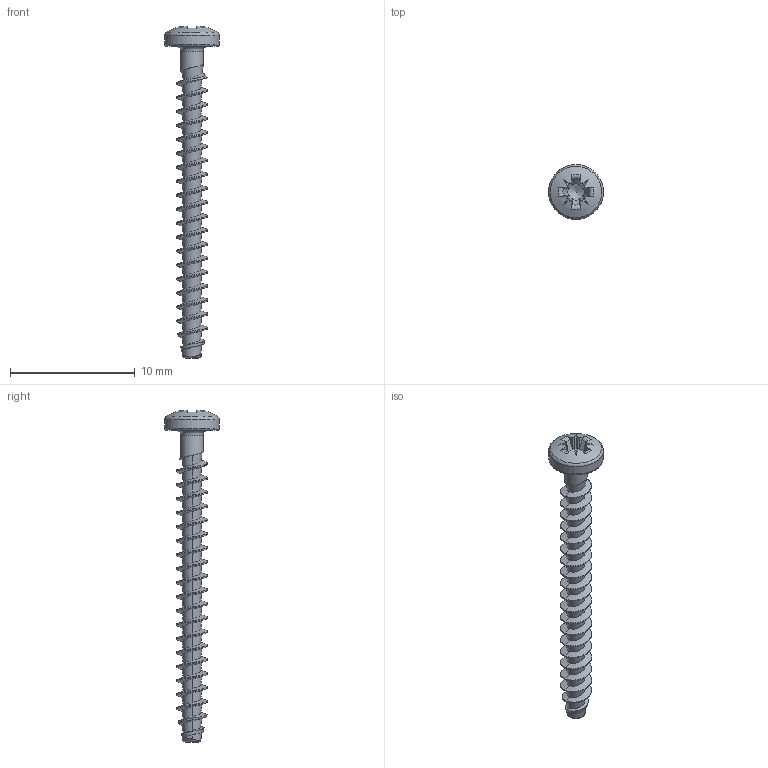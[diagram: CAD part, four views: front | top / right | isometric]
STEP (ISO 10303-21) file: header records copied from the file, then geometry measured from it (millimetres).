
FILE_DESCRIPTION(/* description */ (''),/* implementation_level */ '2;1');
FILE_NAME(/* name */ 'KN1032-Neu-STS-25x25-Z1.step',/* time_stamp */ '2017-10-11T13:09:41+02:00',/* author */ (''),/* organization */ (''),/* preprocessor_version */ 'ST-DEVELOPER v16',/* originating_system */ 'SIEMENS PLM Software NX 10.0',/* authorisation */ '');
FILE_SCHEMA (('AUTOMOTIVE_DESIGN { 1 0 10303 214 3 1 1 1 }'));
Length unit declared in the file: millimetre
Products named in the file (1): KN1032-Neu-STS-25x25-Z1
Bounding box: 4.4 x 4.4 x 26.62 mm (x, y, z)
Volume: 76.3 mm3; surface area: 275.3 mm2
Topology: 1 solids, 1 shells, 119 faces, 302 edges, 185 vertices
Faces by surface type: bspline 65, plane 26, cylinder 12, torus 8, cone 7, sphere 1
Full cylindrical faces by diameter (mm): 1.8 x1, 4.4 x1
Entity records: 7839 total; most frequent: CARTESIAN_POINT 5515, ORIENTED_EDGE 572, DIRECTION 292, EDGE_CURVE 286, VERTEX_POINT 179, B_SPLINE_CURVE_WITH_KNOTS 149, EDGE_LOOP 126, ADVANCED_FACE 118
